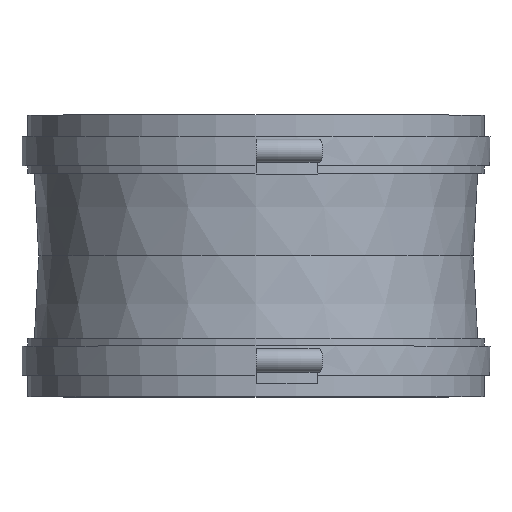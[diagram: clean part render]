
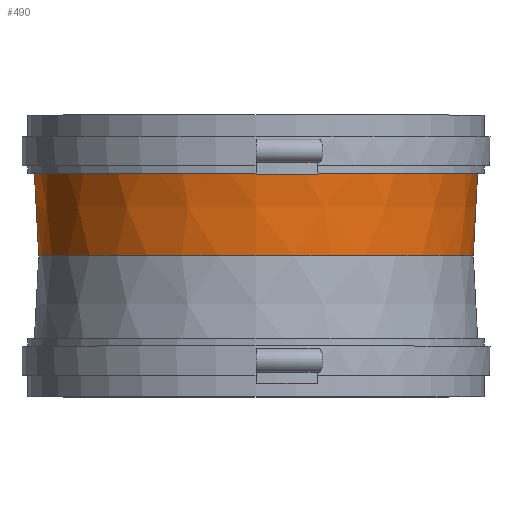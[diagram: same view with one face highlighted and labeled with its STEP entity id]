
A CAD part, top view. The second image highlights one B-rep face of the part: STEP entity #490.
In plain terms, the highlighted conical face has half-angle 3 degrees and reference radius 113.19 mm.
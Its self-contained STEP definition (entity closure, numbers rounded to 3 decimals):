
#17=CONICAL_SURFACE('',#570,113.19,3.);
#39=FACE_BOUND('',#151,.T.);
#93=FACE_OUTER_BOUND('',#150,.T.);
#150=EDGE_LOOP('',(#417));
#151=EDGE_LOOP('',(#418));
#218=CIRCLE('',#556,114.5);
#223=CIRCLE('',#569,111.88);
#258=VERTEX_POINT('',#841);
#263=VERTEX_POINT('',#859);
#310=EDGE_CURVE('',#258,#258,#218,.T.);
#315=EDGE_CURVE('',#263,#263,#223,.T.);
#417=ORIENTED_EDGE('',*,*,#315,.T.);
#418=ORIENTED_EDGE('',*,*,#310,.F.);
#490=ADVANCED_FACE('',(#93,#39),#17,.T.);
#556=AXIS2_PLACEMENT_3D('',#842,#701,#702);
#569=AXIS2_PLACEMENT_3D('',#860,#727,#728);
#570=AXIS2_PLACEMENT_3D('',#861,#729,#730);
#701=DIRECTION('center_axis',(0.,1.,0.));
#702=DIRECTION('ref_axis',(1.,0.,0.));
#727=DIRECTION('center_axis',(0.,1.,0.));
#728=DIRECTION('ref_axis',(1.,0.,0.));
#729=DIRECTION('center_axis',(0.,1.,0.));
#730=DIRECTION('ref_axis',(0.,0.,1.));
#841=CARTESIAN_POINT('',(0.,50.,114.5));
#842=CARTESIAN_POINT('Origin',(0.,50.,0.));
#859=CARTESIAN_POINT('',(0.,0.,111.88));
#860=CARTESIAN_POINT('Origin',(0.,0.,0.));
#861=CARTESIAN_POINT('Origin',(0.,25.,0.));
